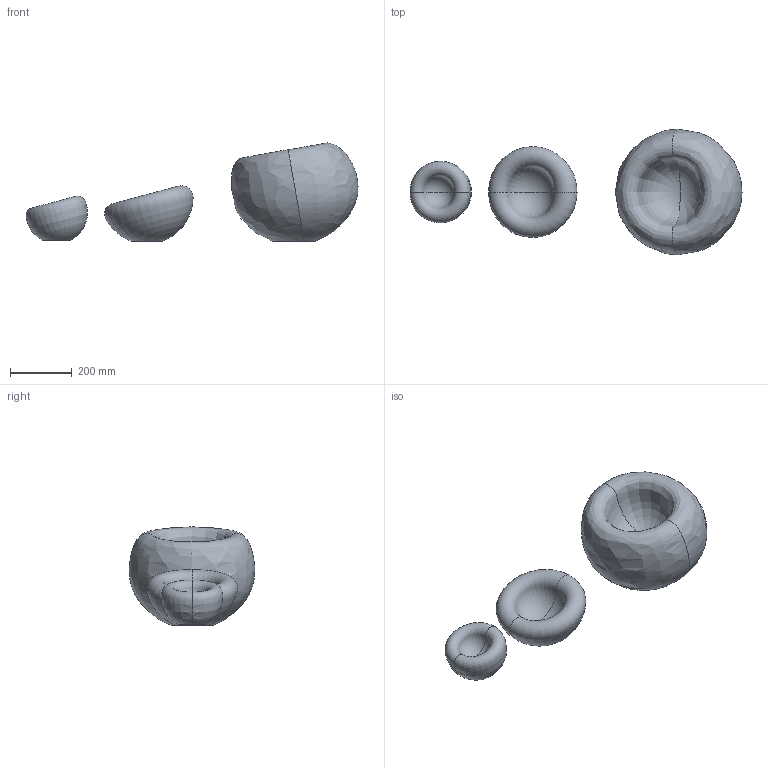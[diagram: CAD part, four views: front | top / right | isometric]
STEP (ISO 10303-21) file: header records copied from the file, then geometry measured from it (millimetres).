
FILE_DESCRIPTION(/* description */ (''),/* implementation_level */ '2;1');
FILE_NAME(/* name */ 'SkLO_BL720,721,722_EchoBowl_3D',/* time_stamp */ '2023-10-24T11:41:37+02:00',/* author */ (''),/* organization */ (''),/* preprocessor_version */ 'ST-DEVELOPER v16.5',/* originating_system */ 'Rhino 7.32',/* authorisation */ '');
FILE_SCHEMA (('CONFIG_CONTROL_DESIGN'));
Length unit declared in the file: millimetre
Products named in the file (1): Document
Bounding box: 1078.45 x 407.79 x 318.85 mm (x, y, z)
Surface area: 1694093.4 mm2 (no closed solid volume)
Topology: 0 solids, 6 shells, 15 faces, 42 edges, 22 vertices
Faces by surface type: bspline 12, plane 3
Entity records: 16024 total; most frequent: CARTESIAN_POINT 15725, ORIENTED_EDGE 47, EDGE_CURVE 28, B_SPLINE_CURVE_WITH_KNOTS 28, VERTEX_POINT 22, EDGE_LOOP 18, ADVANCED_FACE 15, FACE_OUTER_BOUND 15
